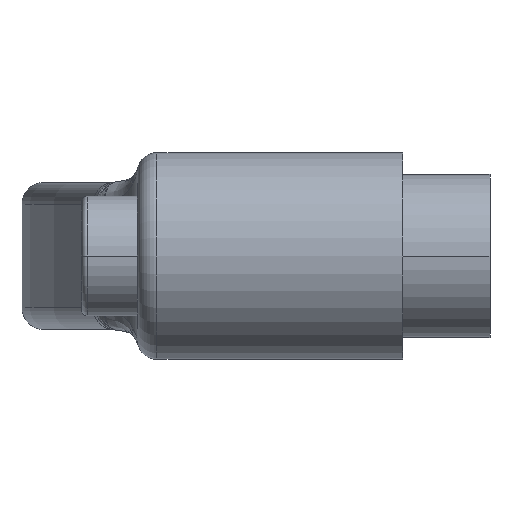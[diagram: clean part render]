
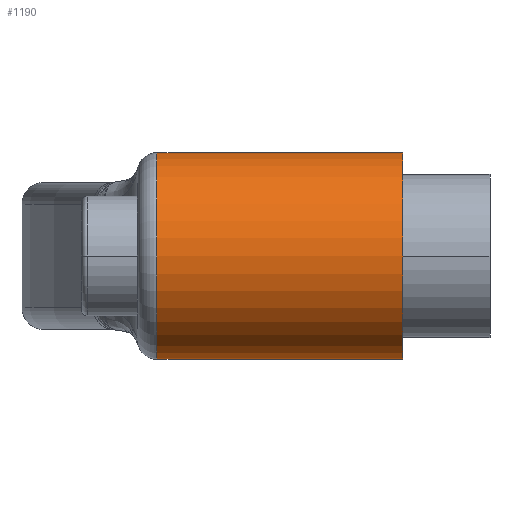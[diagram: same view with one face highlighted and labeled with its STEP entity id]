
A CAD part, left-side view. The second image highlights one B-rep face of the part: STEP entity #1190.
In plain terms, the highlighted cylindrical face has radius 9.5 mm (diameter 19 mm), a partial arc.
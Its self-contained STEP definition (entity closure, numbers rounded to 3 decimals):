
#64 = VECTOR ( 'NONE', #1081, 1000. ) ;
#71 = AXIS2_PLACEMENT_3D ( 'NONE', #2178, #1163, #2632 ) ;
#364 = AXIS2_PLACEMENT_3D ( 'NONE', #2730, #524, #2026 ) ;
#511 = EDGE_CURVE ( 'NONE', #1146, #2616, #1074, .T. ) ;
#524 = DIRECTION ( 'NONE',  ( 0., -1., 0. ) ) ;
#592 = EDGE_CURVE ( 'NONE', #2616, #842, #857, .T. ) ;
#842 = VERTEX_POINT ( 'NONE', #3052 ) ;
#857 = LINE ( 'NONE', #1627, #64 ) ;
#884 = VECTOR ( 'NONE', #2186, 1000. ) ;
#996 = CARTESIAN_POINT ( 'NONE',  ( 0., 22.6, -9.5 ) ) ;
#1074 = CIRCLE ( 'NONE', #364, 9.5 ) ;
#1081 = DIRECTION ( 'NONE',  ( 0., -1., 0. ) ) ;
#1146 = VERTEX_POINT ( 'NONE', #3173 ) ;
#1163 = DIRECTION ( 'NONE',  ( 0., -1., 0. ) ) ;
#1189 = CARTESIAN_POINT ( 'NONE',  ( 0., 0., 9.5 ) ) ;
#1190 = ADVANCED_FACE ( 'NONE', ( #1663 ), #1725, .T. ) ;
#1213 = ORIENTED_EDGE ( 'NONE', *, *, #2826, .F. ) ;
#1275 = AXIS2_PLACEMENT_3D ( 'NONE', #1424, #2635, #1476 ) ;
#1424 = CARTESIAN_POINT ( 'NONE',  ( 0., 0., 0. ) ) ;
#1476 = DIRECTION ( 'NONE',  ( 0., 0., -1. ) ) ;
#1566 = ORIENTED_EDGE ( 'NONE', *, *, #511, .T. ) ;
#1627 = CARTESIAN_POINT ( 'NONE',  ( 0., 0., -9.5 ) ) ;
#1663 = FACE_OUTER_BOUND ( 'NONE', #2602, .T. ) ;
#1685 = EDGE_CURVE ( 'NONE', #1146, #1723, #2416, .T. ) ;
#1723 = VERTEX_POINT ( 'NONE', #2507 ) ;
#1725 = CYLINDRICAL_SURFACE ( 'NONE', #71, 9.5 ) ;
#2026 = DIRECTION ( 'NONE',  ( 0., 0., -1. ) ) ;
#2178 = CARTESIAN_POINT ( 'NONE',  ( 0., 0., 0. ) ) ;
#2186 = DIRECTION ( 'NONE',  ( 0., -1., 0. ) ) ;
#2281 = ORIENTED_EDGE ( 'NONE', *, *, #1685, .F. ) ;
#2412 = CIRCLE ( 'NONE', #1275, 9.5 ) ;
#2416 = LINE ( 'NONE', #1189, #884 ) ;
#2507 = CARTESIAN_POINT ( 'NONE',  ( 0., 0., 9.5 ) ) ;
#2602 = EDGE_LOOP ( 'NONE', ( #2281, #1566, #2831, #1213 ) ) ;
#2616 = VERTEX_POINT ( 'NONE', #996 ) ;
#2632 = DIRECTION ( 'NONE',  ( 0., 0., -1. ) ) ;
#2635 = DIRECTION ( 'NONE',  ( 0., -1., 0. ) ) ;
#2730 = CARTESIAN_POINT ( 'NONE',  ( 0., 22.6, 0. ) ) ;
#2826 = EDGE_CURVE ( 'NONE', #1723, #842, #2412, .T. ) ;
#2831 = ORIENTED_EDGE ( 'NONE', *, *, #592, .T. ) ;
#3052 = CARTESIAN_POINT ( 'NONE',  ( 0., 0., -9.5 ) ) ;
#3173 = CARTESIAN_POINT ( 'NONE',  ( 0., 22.6, 9.5 ) ) ;
